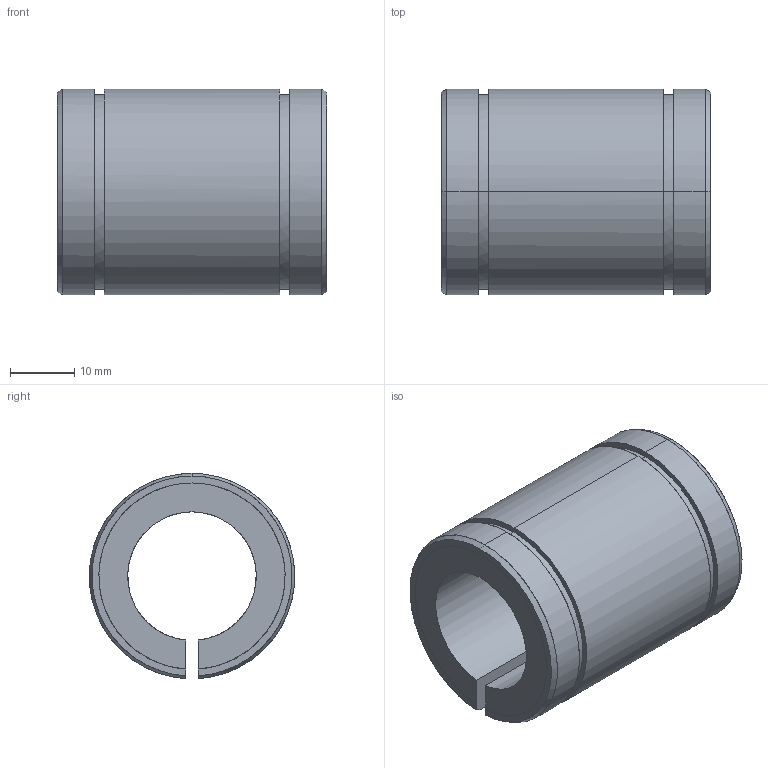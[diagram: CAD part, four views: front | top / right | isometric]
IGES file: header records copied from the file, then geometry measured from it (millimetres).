
Global section: file name: No Iges File Name specified; native system: AutoDesk Inventor R10; preprocessor: AutoDesk Inventor Iges Exporter R10; author: No Author specified; organization: No Organization specified; date: 20101208.095944; units: millimetre
Bounding box: 42 x 31.98 x 31.97 mm (x, y, z)
Surface area: 8395.2 mm2 (no closed solid volume)
Topology: 0 solids, 0 shells, 30 faces, 248 edges, 248 vertices
Faces by surface type: bspline 30
